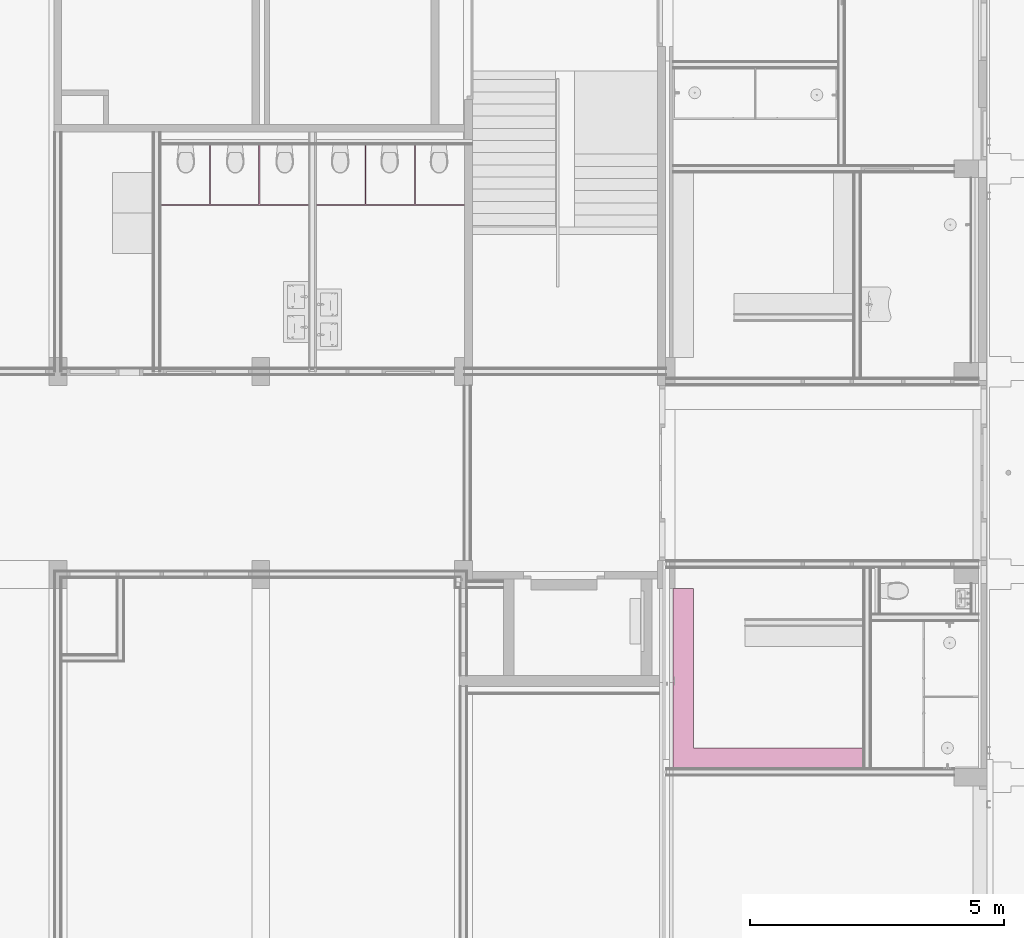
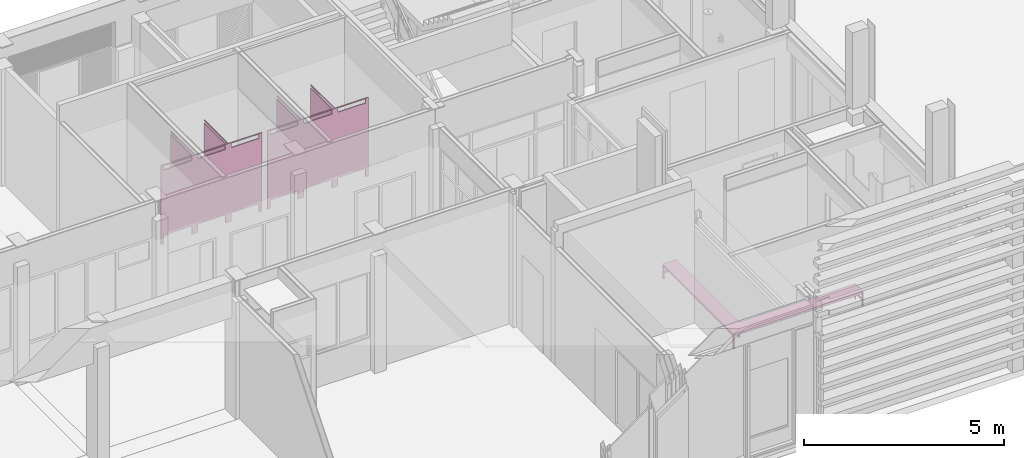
# One storey, part 102 of 109: 3 furnishings.
"""IFC2X3 building model written with IfcOpenShell, lengths in millimetres."""

import ifcopenshell
import ifcopenshell.guid

model = None  # the IFC model being written
_history = None  # IfcOwnerHistory: only IFC2X3 demands one
_inside = {}  # id of a spatial element -> (the spatial element, [elements in it])
_under = {}  # id of a project, library or spatial element -> (it, [spatial elements below it])
_declared = {}  # id of a project -> (the project, [libraries it declares])
_typed = {}  # id of a type object -> (the type object, [elements of that type])
_made_of = {}  # id of a material, layer set ... -> (it, [elements and type objects made of it])


def new_model(schema):
    """Start an empty IFC model of exactly this schema.

    Asked for "IFC4X3", IfcOpenShell would pick the latest addendum, in which some entities
    have other attributes; the version numbers below select the first issue.
    IFC2X3 requires an IfcOwnerHistory on every rooted entity: one is made here for all.
    """
    global model, _history
    if schema == "IFC4X3":
        model = ifcopenshell.file(schema_version=(4, 3, 0, 0))
    else:
        model = ifcopenshell.file(schema=schema)
    _inside.clear()
    _under.clear()
    _declared.clear()
    _typed.clear()
    _made_of.clear()
    _history = None
    if model.schema == "IFC2X3":
        org = make("IfcOrganization", Name="unknown")
        user = make(
            "IfcPersonAndOrganization",
            ThePerson=make("IfcPerson", FamilyName="unknown"),
            TheOrganization=org,
        )
        app = make(
            "IfcApplication",
            ApplicationDeveloper=org,
            Version="unknown",
            ApplicationFullName="unknown",
            ApplicationIdentifier="unknown",
        )
        _history = make(
            "IfcOwnerHistory",
            OwningUser=user,
            OwningApplication=app,
            ChangeAction="ADDED",
            CreationDate=0,
        )
    return model


def make(cls, **values):
    """One entity of the class cls with the attributes given. An attribute that is None is left unset."""
    return model.create_entity(
        cls, **{name: value for name, value in values.items() if value is not None}
    )


def entity(cls, *values):
    """Any entity or typed value of the class cls, its attributes in the order of the schema. None: left unset."""
    e = model.create_entity(cls)
    for i, value in enumerate(values):
        if value is not None:
            e[i] = value
    return e


def rooted(cls, **values):
    """An entity with a GlobalId (a new one), such as an element, a storey or a relation."""
    return make(cls, GlobalId=ifcopenshell.guid.new(), OwnerHistory=_history, **values)


def si_unit(unit_type, name, prefix=None):
    """IfcSIUnit, for example si_unit("LENGTHUNIT", "METRE", prefix="MILLI")."""
    return make("IfcSIUnit", UnitType=unit_type, Prefix=prefix, Name=name)


def converted_unit(unit_type, name, factor, base, dimensions=None, offset=None):
    """IfcConversionBasedUnit, such as the inch: factor (a typed value) times the base unit."""
    return make(
        "IfcConversionBasedUnit"
        if offset is None
        else "IfcConversionBasedUnitWithOffset",
        ConversionOffset=offset,
        Dimensions=None
        if dimensions is None
        else entity("IfcDimensionalExponents", *dimensions),
        UnitType=unit_type,
        Name=name,
        ConversionFactor=make(
            "IfcMeasureWithUnit", ValueComponent=factor, UnitComponent=base
        ),
    )


def derived_unit(unit_type, elements):
    """IfcDerivedUnit: a product of units, each with its exponent."""
    return make(
        "IfcDerivedUnit",
        Elements=[
            make("IfcDerivedUnitElement", Unit=unit, Exponent=power)
            for unit, power in elements
        ],
        UnitType=unit_type,
    )


def money_unit(currency):
    """IfcMonetaryUnit."""
    return make("IfcMonetaryUnit", Currency=currency)


def assignment(units):
    """IfcUnitAssignment: the units of a project."""
    return None if units is None else make("IfcUnitAssignment", Units=units)


def point(xyz):
    """IfcCartesianPoint."""
    return None if xyz is None else make("IfcCartesianPoint", Coordinates=xyz)


def direction(xyz):
    """IfcDirection."""
    return None if xyz is None else make("IfcDirection", DirectionRatios=xyz)


def frame(location, z_axis=None, x_axis=None):
    """IfcAxis2Placement3D, a coordinate frame: its origin and axes. An axis left out is left unset."""
    return make(
        "IfcAxis2Placement3D",
        Location=point(location),
        Axis=direction(z_axis),
        RefDirection=direction(x_axis),
    )


def origin_with_axes():
    """The frame at (0, 0, 0) with the z axis (0, 0, 1) and the x axis (1, 0, 0) written out."""
    return frame((0.0, 0.0, 0.0), z_axis=(0.0, 0.0, 1.0), x_axis=(1.0, 0.0, 0.0))


def place(relative_to, where):
    """IfcLocalPlacement: puts the frame where relative to a parent placement (None: the world)."""
    return make(
        "IfcLocalPlacement", PlacementRelTo=relative_to, RelativePlacement=where
    )


def context(
    kind, dimensions, precision=None, world=None, true_north=None, identifier=None
):
    """IfcGeometricRepresentationContext, for example the 3D "Model" context."""
    return make(
        "IfcGeometricRepresentationContext",
        ContextIdentifier=identifier,
        ContextType=kind,
        CoordinateSpaceDimension=dimensions,
        Precision=precision,
        WorldCoordinateSystem=world,
        TrueNorth=true_north,
    )


def subcontext(parent, identifier, kind, view, scale=None):
    """IfcGeometricRepresentationSubContext, for example "Body" below "Model"."""
    return make(
        "IfcGeometricRepresentationSubContext",
        ContextIdentifier=identifier,
        ContextType=kind,
        ParentContext=parent,
        TargetScale=scale,
        TargetView=view,
    )


def project(units=None, contexts=None):
    """IfcProject with its units and contexts."""
    return rooted(
        "IfcProject",
        Name="project",
        RepresentationContexts=contexts,
        UnitsInContext=assignment(units),
    )


def spatial(cls, under=None, at=None, **own):
    """A site, building, storey or space (cls), placed at a placement, below another one or the project."""
    s = rooted(cls, ObjectPlacement=at, **own)
    if under is not None:
        _under.setdefault(under.id(), (under, []))[1].append(s)
    return s


def faces_of(points, faces, orient=None, outer=None):
    """IfcFace entities. A face is a list of loops; a loop is a list of indices into points, from 0.

    orient and outer hold one flag for each loop. By default every Orientation is true, the
    first loop of a face is its IfcFaceOuterBound and the others are IfcFaceBound.
    """
    made = []
    for i, loops in enumerate(faces):
        bounds = []
        for j, loop in enumerate(loops):
            is_outer = j == 0 if outer is None else outer[i][j]
            bounds.append(
                make(
                    "IfcFaceOuterBound" if is_outer else "IfcFaceBound",
                    Bound=make("IfcPolyLoop", Polygon=[points[k] for k in loop]),
                    Orientation=True if orient is None else orient[i][j],
                )
            )
        made.append(make("IfcFace", Bounds=bounds))
    return made


def open_shell(faces, orient=None, outer=None):
    """The faces of one IfcOpenShell. surface_model builds it on its shared points."""
    return ("IfcOpenShell", faces, orient, outer)


def faceted_brep(points, faces, orient=None, outer=None, voids=None):
    """IfcFacetedBrep: a solid bounded by flat faces; with voids (closed shells), ...WithVoids."""
    shared = [point(p) for p in points]
    hull = make("IfcClosedShell", CfsFaces=faces_of(shared, faces, orient, outer))
    if voids is None:
        return make("IfcFacetedBrep", Outer=hull)
    return make(
        "IfcFacetedBrepWithVoids",
        Outer=hull,
        Voids=[
            make(cls, CfsFaces=faces_of(shared, fs, o, b)) for cls, fs, o, b in voids
        ],
    )


def surface_model(cls, points, shells):
    """IfcFaceBasedSurfaceModel or IfcShellBasedSurfaceModel (cls): surfaces that need not close."""
    shared = [point(p) for p in points]
    made = [make(c, CfsFaces=faces_of(shared, fs, o, b)) for c, fs, o, b in shells]
    if cls == "IfcFaceBasedSurfaceModel":
        return make(cls, FbsmFaces=made)
    return make(cls, SbsmBoundary=made)


def shape(context_of_items, identifier, shape_type, items):
    """IfcShapeRepresentation: the items that make up one representation, for example the "Body"."""
    return make(
        "IfcShapeRepresentation",
        ContextOfItems=context_of_items,
        RepresentationIdentifier=identifier,
        RepresentationType=shape_type,
        Items=items,
    )


def made_of(thing, what):
    """Note that an element or type object is made of a material, layer set ...; save() writes the relation."""
    if what is not None:
        _made_of.setdefault(what.id(), (what, []))[1].append(thing)
    return thing


def type_object(cls, material=None, **own):
    """A type object (cls), such as IfcWallType, which elements share."""
    return made_of(rooted(cls, **own), material)


def element(
    cls,
    number,
    at=None,
    inside=None,
    cuts=None,
    type_object=None,
    material=None,
    context=None,
    identifier="Body",
    shape_type=None,
    held_by="IfcProductDefinitionShape",
    body=None,
    shapes=None,
    **own,
):
    """One element of the class cls, such as IfcWall. Its Tag is "e" and its number.

    at: its placement. inside: the storey or other place that contains it. cuts: it is an
    opening in that element (IfcRelVoidsElement). A single representation is given by context,
    identifier, shape_type and body (its items); several are given by shapes. held_by: the class
    of the entity that holds the representations. save() writes the other relations.
    """
    e = rooted(cls, Tag="e%d" % number, ObjectPlacement=at, **own)
    if body is not None:
        shapes = [shape(context, identifier, shape_type, body)]
    if shapes is not None:
        e.Representation = make(held_by, Representations=shapes)
    if inside is not None:
        _inside.setdefault(inside.id(), (inside, []))[1].append(e)
    if cuts is not None:
        rooted(
            "IfcRelVoidsElement", RelatingBuildingElement=cuts, RelatedOpeningElement=e
        )
    if type_object is not None:
        _typed.setdefault(type_object.id(), (type_object, []))[1].append(e)
    return made_of(e, material)


def aggregate(whole, parts):
    """IfcRelAggregates: a whole, such as a stair, and the parts it consists of."""
    return rooted("IfcRelAggregates", RelatingObject=whole, RelatedObjects=parts)


def save(model, path):
    """Write the relations noted so far, then the file.

    IfcRelAggregates (storeys below a building ...), IfcRelContainedInSpatialStructure (elements
    in a storey), IfcRelDefinesByType, IfcRelAssociatesMaterial and IfcRelDeclares: one each for
    every whole, place, type object, material and project.
    """
    for whole, parts in _under.values():
        aggregate(whole, parts)
    for where, things in _inside.values():
        rooted(
            "IfcRelContainedInSpatialStructure",
            RelatedElements=things,
            RelatingStructure=where,
        )
    for kind, things in _typed.values():
        rooted("IfcRelDefinesByType", RelatedObjects=things, RelatingType=kind)
    for what, things in _made_of.values():
        rooted("IfcRelAssociatesMaterial", RelatedObjects=things, RelatingMaterial=what)
    for by, libraries in _declared.values():
        rooted("IfcRelDeclares", RelatingContext=by, RelatedDefinitions=libraries)
    model.write(path)


model = new_model("IFC2X3")

# Units and contexts
model_context = context("Model", 3, precision=0.01, world=origin_with_axes(), true_north=direction((0.0, 1.0)))
body_context = subcontext(model_context, "Body", "Model", "MODEL_VIEW")
ifc_project = project(units=[si_unit("LENGTHUNIT", "METRE", prefix="MILLI"), si_unit("AREAUNIT", "SQUARE_METRE"), si_unit("VOLUMEUNIT", "CUBIC_METRE"), converted_unit("PLANEANGLEUNIT", "DEGREE", entity("IfcPlaneAngleMeasure", 0.0174532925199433), si_unit("PLANEANGLEUNIT", "RADIAN"), dimensions=[0, 0, 0, 0, 0, 0, 0]), money_unit("EUR"), converted_unit("TIMEUNIT", "Year", entity("IfcTimeMeasure", 31557600.0), si_unit("TIMEUNIT", "SECOND"), dimensions=[0, 0, 1, 0, 0, 0, 0]), si_unit("MASSUNIT", "GRAM", prefix="KILO"), si_unit("THERMODYNAMICTEMPERATUREUNIT", "DEGREE_CELSIUS"), si_unit("LUMINOUSINTENSITYUNIT", "LUMEN"), si_unit("ENERGYUNIT", "JOULE", prefix="MEGA"), derived_unit("THERMALCONDUCTANCEUNIT", [(si_unit("POWERUNIT", "WATT"), 1), (si_unit("LENGTHUNIT", "METRE"), -1), (si_unit("THERMODYNAMICTEMPERATUREUNIT", "KELVIN"), -1)]), derived_unit("SPECIFICHEATCAPACITYUNIT", [(si_unit("ENERGYUNIT", "JOULE"), 1), (si_unit("MASSUNIT", "GRAM", prefix="KILO"), -1), (si_unit("THERMODYNAMICTEMPERATUREUNIT", "KELVIN"), -1)]), derived_unit("MASSDENSITYUNIT", [(si_unit("MASSUNIT", "GRAM", prefix="KILO"), 1), (si_unit("VOLUMEUNIT", "CUBIC_METRE"), -1)])], contexts=[model_context])

# Site, building, storey
site_placement = place(None, origin_with_axes())
site = spatial("IfcSite", under=ifc_project, at=site_placement, Name="<site naam>", CompositionType="ELEMENT")
building_placement = place(site_placement, origin_with_axes())
building = spatial("IfcBuilding", under=site, at=building_placement, Name="<Naam gebouw>", CompositionType="ELEMENT")
storey_placement = place(building_placement, origin_with_axes())
storey = spatial("IfcBuildingStorey", under=building, at=storey_placement, Name="00 Begane grond", CompositionType="ELEMENT", Elevation=0.0)

# Furnishings
furnishing_element_type = type_object("IfcFurnishingElementType", Name="Sanitaire wanden 27")
furnishing_1_placement = place(storey_placement, frame((48015.00002721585, 15274.90104163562, 0.0), z_axis=(0.0, 0.0, 1.0), x_axis=(1.0, 0.0, 0.0)))
element("IfcFurnishingElement", 1, at=furnishing_1_placement, inside=storey, type_object=furnishing_element_type, Name="72_Sanitaire wanden Kupan_Lege", context=body_context, shape_type="SurfaceModel", body=[
    faceted_brep([(0.0, 0.0, 0.0), (0.0, 0.0, 2375.0), (-86.66666776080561, 0.0, 2375.0), (-86.66666776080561, 0.0, 0.0), (0.0, 25.0, 0.0), (0.0, 25.0, 2375.0), (-86.66666776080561, 25.0, 2375.0), (-86.66666776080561, 25.0, 0.0)], [[[0, 1, 2, 3]], [[4, 5, 1, 0]], [[1, 5, 6, 2]], [[3, 2, 6, 7]], [[0, 3, 7, 4]], [[7, 6, 5, 4]]]),
    surface_model("IfcShellBasedSurfaceModel", [(-886.6666677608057, 0.0, 0.0), (-886.6666677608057, 0.0, 2375.0), (-973.3333355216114, 0.0, 2375.0), (-973.3333355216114, 0.0, 0.0), (-886.6666677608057, 25.0, 0.0), (-886.6666677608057, 25.0, 2375.0), (-973.3333355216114, 25.0, 2375.0), (-973.3333355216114, 25.0, 0.0)], [open_shell([[[0, 1, 2, 3]], [[4, 5, 1, 0]], [[1, 5, 6, 2]], [[0, 3, 7, 4]], [[7, 6, 5, 4]]])]),
    surface_model("IfcShellBasedSurfaceModel", [(0.0, 0.0, 0.0), (-86.66666776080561, 0.0, 0.0), (-86.66666776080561, 25.0, 0.0), (0.0, 25.0, 0.0)], [open_shell([[[0, 1, 2, 3]]])]),
    surface_model("IfcShellBasedSurfaceModel", [(-886.6666677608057, 0.0, 0.0), (-973.3333355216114, 0.0, 0.0), (-973.3333355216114, 25.0, 0.0), (-886.6666677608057, 25.0, 0.0)], [open_shell([[[0, 1, 2, 3]]])]),
    surface_model("IfcShellBasedSurfaceModel", [(-973.3333355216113, 25.0, 2375.0), (-973.3333355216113, 25.0, 2400.0), (0.0, 25.0, 2400.0), (0.0, 25.0, 2375.0), (-973.3333355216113, 0.0, 2400.0), (0.0, 0.0, 2400.0), (0.0, 0.0, 2375.0), (-973.3333355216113, 0.0, 2375.0)], [open_shell([[[0, 1, 2, 3]], [[4, 5, 2, 1]], [[3, 2, 5, 6]], [[7, 0, 3, 6]], [[6, 5, 4, 7]]])]),
    faceted_brep([(-86.66666776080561, 0.0, 250.0), (-86.66666776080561, 0.0, 2250.0), (-886.6666677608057, 0.0, 2250.0), (-886.6666677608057, 0.0, 250.0), (-86.66666776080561, 25.0, 250.0), (-86.66666776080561, 25.0, 2250.0), (-886.6666677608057, 25.0, 2250.0), (-886.6666677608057, 25.0, 250.0)], [[[0, 1, 2, 3]], [[4, 5, 1, 0]], [[1, 5, 6, 2]], [[3, 2, 6, 7]], [[0, 3, 7, 4]], [[7, 6, 5, 4]]]),
    surface_model("IfcShellBasedSurfaceModel", [(-973.3333355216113, 0.0, 0.0), (-973.3333355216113, 0.0, 2375.0), (-1060.000003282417, 0.0, 2375.0), (-1060.000003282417, 0.0, 0.0), (-973.3333355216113, 25.0, 2375.0), (-1060.000003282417, 25.0, 2375.0), (-1060.000003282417, 25.0, 0.0), (-973.3333355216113, 25.0, 0.0)], [open_shell([[[0, 1, 2, 3]], [[1, 4, 5, 2]], [[3, 2, 5, 6]], [[0, 3, 6, 7]], [[6, 5, 4, 7]]])]),
    surface_model("IfcShellBasedSurfaceModel", [(-1860.000003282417, 0.0, 0.0), (-1860.000003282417, 0.0, 2375.0), (-1946.666671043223, 0.0, 2375.0), (-1946.666671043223, 0.0, 0.0), (-1860.000003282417, 25.0, 0.0), (-1860.000003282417, 25.0, 2375.0), (-1946.666671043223, 25.0, 2375.0), (-1946.666671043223, 25.0, 0.0)], [open_shell([[[0, 1, 2, 3]], [[4, 5, 1, 0]], [[1, 5, 6, 2]], [[0, 3, 7, 4]], [[7, 6, 5, 4]]])]),
    surface_model("IfcShellBasedSurfaceModel", [(-973.3333355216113, 0.0, 0.0), (-1060.000003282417, 0.0, 0.0), (-1060.000003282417, 25.0, 0.0), (-973.3333355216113, 25.0, 0.0)], [open_shell([[[0, 1, 2, 3]]])]),
    surface_model("IfcShellBasedSurfaceModel", [(-1860.000003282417, 0.0, 0.0), (-1946.666671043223, 0.0, 0.0), (-1946.666671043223, 25.0, 0.0), (-1860.000003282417, 25.0, 0.0)], [open_shell([[[0, 1, 2, 3]]])]),
    surface_model("IfcShellBasedSurfaceModel", [(-1946.666671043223, 25.0, 2375.0), (-1946.666671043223, 25.0, 2400.0), (-973.3333355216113, 25.0, 2400.0), (-973.3333355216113, 25.0, 2375.0), (-1946.666671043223, 0.0, 2400.0), (-973.3333355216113, 0.0, 2400.0), (-1946.666671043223, 0.0, 2375.0), (-973.3333355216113, 0.0, 2375.0)], [open_shell([[[0, 1, 2, 3]], [[4, 5, 2, 1]], [[6, 0, 3, 7]], [[7, 5, 4, 6]]])]),
    faceted_brep([(-1060.000003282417, 0.0, 250.0), (-1060.000003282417, 0.0, 2250.0), (-1860.000003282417, 0.0, 2250.0), (-1860.000003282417, 0.0, 250.0), (-1060.000003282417, 25.0, 250.0), (-1060.000003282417, 25.0, 2250.0), (-1860.000003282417, 25.0, 2250.0), (-1860.000003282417, 25.0, 250.0)], [[[0, 1, 2, 3]], [[4, 5, 1, 0]], [[1, 5, 6, 2]], [[3, 2, 6, 7]], [[0, 3, 7, 4]], [[7, 6, 5, 4]]]),
    surface_model("IfcShellBasedSurfaceModel", [(-1946.666671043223, 0.0, 0.0), (-1946.666671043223, 0.0, 2375.0), (-2033.333338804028, 0.0, 2375.0), (-2033.333338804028, 0.0, 0.0), (-1946.666671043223, 25.0, 2375.0), (-2033.333338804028, 25.0, 2375.0), (-2033.333338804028, 25.0, 0.0), (-1946.666671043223, 25.0, 0.0)], [open_shell([[[0, 1, 2, 3]], [[1, 4, 5, 2]], [[3, 2, 5, 6]], [[0, 3, 6, 7]], [[6, 5, 4, 7]]])]),
    faceted_brep([(-2833.333338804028, 0.0, 0.0), (-2833.333338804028, 0.0, 2375.0), (-2920.000006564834, 0.0, 2375.0), (-2920.000006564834, 0.0, 0.0), (-2833.333338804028, 25.0, 0.0), (-2833.333338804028, 25.0, 2375.0), (-2920.000006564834, 25.0, 2375.0), (-2920.000006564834, 25.0, 0.0)], [[[0, 1, 2, 3]], [[4, 5, 1, 0]], [[1, 5, 6, 2]], [[3, 2, 6, 7]], [[0, 3, 7, 4]], [[7, 6, 5, 4]]]),
    surface_model("IfcShellBasedSurfaceModel", [(-1946.666671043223, 0.0, 0.0), (-2033.333338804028, 0.0, 0.0), (-2033.333338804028, 25.0, 0.0), (-1946.666671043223, 25.0, 0.0)], [open_shell([[[0, 1, 2, 3]]])]),
    surface_model("IfcShellBasedSurfaceModel", [(-2833.333338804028, 0.0, 0.0), (-2920.000006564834, 0.0, 0.0), (-2920.000006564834, 25.0, 0.0), (-2833.333338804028, 25.0, 0.0)], [open_shell([[[0, 1, 2, 3]]])]),
    surface_model("IfcShellBasedSurfaceModel", [(-2920.000006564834, 0.0, 2375.0), (-2920.000006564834, 0.0, 2400.0), (-2920.000006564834, 25.0, 2400.0), (-2920.000006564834, 25.0, 2375.0), (-1946.666671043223, 0.0, 2375.0), (-1946.666671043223, 0.0, 2400.0), (-1946.666671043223, 25.0, 2400.0), (-1946.666671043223, 25.0, 2375.0)], [open_shell([[[0, 1, 2, 3]], [[4, 5, 1, 0]], [[1, 5, 6, 2]], [[3, 2, 6, 7]], [[0, 3, 7, 4]]])]),
    faceted_brep([(-2033.333338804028, 0.0, 250.0), (-2033.333338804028, 0.0, 2250.0), (-2833.333338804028, 0.0, 2250.0), (-2833.333338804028, 0.0, 250.0), (-2033.333338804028, 25.0, 250.0), (-2033.333338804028, 25.0, 2250.0), (-2833.333338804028, 25.0, 2250.0), (-2833.333338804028, 25.0, 250.0)], [[[0, 1, 2, 3]], [[4, 5, 1, 0]], [[1, 5, 6, 2]], [[3, 2, 6, 7]], [[0, 3, 7, 4]], [[7, 6, 5, 4]]]),
    faceted_brep([(-985.8333355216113, 25.0, 300.0), (-985.8333355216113, 25.0, 2300.0), (-985.8333355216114, 1200.048789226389, 2300.0), (-985.8333355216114, 1200.048789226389, 300.0), (-960.8333355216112, 25.0, 300.0), (-960.8333355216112, 25.0, 2300.0), (-960.8333355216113, 1200.048789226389, 2300.0), (-960.8333355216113, 1200.048789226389, 300.0)], [[[0, 1, 2, 3]], [[4, 5, 1, 0]], [[1, 5, 6, 2]], [[3, 2, 6, 7]], [[0, 3, 7, 4]], [[7, 6, 5, 4]]]),
    faceted_brep([(-985.8333355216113, 25.0, 2375.0), (-985.8333355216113, 25.0, 2400.0), (-985.8333355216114, 1200.048789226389, 2400.0), (-985.8333355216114, 1200.048789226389, 2375.0), (-960.8333355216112, 25.0, 2375.0), (-960.8333355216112, 25.0, 2400.0), (-960.8333355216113, 1200.048789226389, 2400.0), (-960.8333355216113, 1200.048789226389, 2375.0)], [[[0, 1, 2, 3]], [[4, 5, 1, 0]], [[1, 5, 6, 2]], [[3, 2, 6, 7]], [[0, 3, 7, 4]], [[7, 6, 5, 4]]]),
    faceted_brep([(-1959.166671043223, 25.0, 300.0), (-1959.166671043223, 25.0, 2300.0), (-1959.166671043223, 1200.048789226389, 2300.0), (-1959.166671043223, 1200.048789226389, 300.0), (-1934.166671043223, 25.0, 300.0), (-1934.166671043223, 25.0, 2300.0), (-1934.166671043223, 1200.048789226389, 2300.0), (-1934.166671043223, 1200.048789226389, 300.0)], [[[0, 1, 2, 3]], [[4, 5, 1, 0]], [[1, 5, 6, 2]], [[3, 2, 6, 7]], [[0, 3, 7, 4]], [[7, 6, 5, 4]]]),
    faceted_brep([(-1959.166671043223, 25.0, 2375.0), (-1959.166671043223, 25.0, 2400.0), (-1959.166671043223, 1200.048789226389, 2400.0), (-1959.166671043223, 1200.048789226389, 2375.0), (-1934.166671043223, 25.0, 2375.0), (-1934.166671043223, 25.0, 2400.0), (-1934.166671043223, 1200.048789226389, 2400.0), (-1934.166671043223, 1200.048789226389, 2375.0)], [[[0, 1, 2, 3]], [[4, 5, 1, 0]], [[1, 5, 6, 2]], [[3, 2, 6, 7]], [[0, 3, 7, 4]], [[7, 6, 5, 4]]]),
])
furnishing_2_placement = place(storey_placement, frame((42025.00000000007, 15274.91244501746, 0.0), z_axis=(0.0, 0.0, 1.0), x_axis=(1.0, 0.0, 0.0)))
element("IfcFurnishingElement", 2, at=furnishing_2_placement, inside=storey, type_object=furnishing_element_type, Name="72_Sanitaire wanden Kupan_Lege", context=body_context, shape_type="SurfaceModel", body=[
    faceted_brep([(0.0, 0.0, 0.0), (86.66667070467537, 0.0, 0.0), (86.66667070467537, 0.0, 2375.0), (0.0, 0.0, 2375.0), (0.0, 25.0, 0.0), (86.66667070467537, 25.0, 0.0), (86.66667070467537, 25.0, 2375.0), (0.0, 25.0, 2375.0)], [[[0, 1, 2, 3]], [[0, 4, 5, 1]], [[1, 5, 6, 2]], [[3, 2, 6, 7]], [[4, 0, 3, 7]], [[5, 4, 7, 6]]]),
    surface_model("IfcShellBasedSurfaceModel", [(886.6666707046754, 0.0, 0.0), (973.3333414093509, 0.0, 0.0), (973.3333414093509, 0.0, 2375.0), (886.6666707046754, 0.0, 2375.0), (886.6666707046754, 25.0, 0.0), (973.3333414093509, 25.0, 0.0), (973.3333414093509, 25.0, 2375.0), (886.6666707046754, 25.0, 2375.0)], [open_shell([[[0, 1, 2, 3]], [[0, 4, 5, 1]], [[3, 2, 6, 7]], [[4, 0, 3, 7]], [[5, 4, 7, 6]]])]),
    surface_model("IfcShellBasedSurfaceModel", [(0.0, 0.0, 0.0), (0.0, 25.0, 0.0), (86.66667070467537, 25.0, 0.0), (86.66667070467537, 0.0, 0.0)], [open_shell([[[0, 1, 2, 3]]])]),
    surface_model("IfcShellBasedSurfaceModel", [(886.6666707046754, 0.0, 0.0), (886.6666707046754, 25.0, 0.0), (973.3333414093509, 25.0, 0.0), (973.3333414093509, 0.0, 0.0)], [open_shell([[[0, 1, 2, 3]]])]),
    surface_model("IfcShellBasedSurfaceModel", [(973.3333414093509, 25.0, 2375.0), (0.0, 25.0, 2375.0), (0.0, 25.0, 2400.0), (973.3333414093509, 25.0, 2400.0), (973.3333414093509, 0.0, 2375.0), (0.0, 0.0, 2375.0), (0.0, 0.0, 2400.0), (973.3333414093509, 0.0, 2400.0)], [open_shell([[[0, 1, 2, 3]], [[4, 5, 1, 0]], [[1, 5, 6, 2]], [[7, 3, 2, 6]], [[5, 4, 7, 6]]])]),
    faceted_brep([(86.66667070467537, 0.0, 250.0), (886.6666707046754, 0.0, 250.0), (886.6666707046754, 0.0, 2250.0), (86.66667070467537, 0.0, 2250.0), (86.66667070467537, 25.0, 250.0), (886.6666707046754, 25.0, 250.0), (886.6666707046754, 25.0, 2250.0), (86.66667070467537, 25.0, 2250.0)], [[[0, 1, 2, 3]], [[0, 4, 5, 1]], [[1, 5, 6, 2]], [[3, 2, 6, 7]], [[4, 0, 3, 7]], [[5, 4, 7, 6]]]),
    surface_model("IfcShellBasedSurfaceModel", [(973.3333414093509, 0.0, 0.0), (1060.000012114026, 0.0, 0.0), (1060.000012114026, 0.0, 2375.0), (973.3333414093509, 0.0, 2375.0), (973.3333414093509, 25.0, 0.0), (1060.000012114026, 25.0, 0.0), (1060.000012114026, 25.0, 2375.0), (973.3333414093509, 25.0, 2375.0)], [open_shell([[[0, 1, 2, 3]], [[0, 4, 5, 1]], [[1, 5, 6, 2]], [[3, 2, 6, 7]], [[5, 4, 7, 6]]])]),
    surface_model("IfcShellBasedSurfaceModel", [(1860.000012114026, 0.0, 0.0), (1946.666682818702, 0.0, 0.0), (1946.666682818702, 0.0, 2375.0), (1860.000012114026, 0.0, 2375.0), (1860.000012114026, 25.0, 0.0), (1946.666682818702, 25.0, 0.0), (1946.666682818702, 25.0, 2375.0), (1860.000012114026, 25.0, 2375.0)], [open_shell([[[0, 1, 2, 3]], [[0, 4, 5, 1]], [[3, 2, 6, 7]], [[4, 0, 3, 7]], [[5, 4, 7, 6]]])]),
    surface_model("IfcShellBasedSurfaceModel", [(973.3333414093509, 0.0, 0.0), (973.3333414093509, 25.0, 0.0), (1060.000012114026, 25.0, 0.0), (1060.000012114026, 0.0, 0.0)], [open_shell([[[0, 1, 2, 3]]])]),
    surface_model("IfcShellBasedSurfaceModel", [(1860.000012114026, 0.0, 0.0), (1860.000012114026, 25.0, 0.0), (1946.666682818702, 25.0, 0.0), (1946.666682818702, 0.0, 0.0)], [open_shell([[[0, 1, 2, 3]]])]),
    surface_model("IfcShellBasedSurfaceModel", [(1946.666682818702, 25.0, 2375.0), (973.3333414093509, 25.0, 2375.0), (973.3333414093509, 25.0, 2400.0), (1946.666682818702, 25.0, 2400.0), (1946.666682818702, 0.0, 2375.0), (973.3333414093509, 0.0, 2375.0), (1946.666682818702, 0.0, 2400.0), (973.3333414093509, 0.0, 2400.0)], [open_shell([[[0, 1, 2, 3]], [[4, 5, 1, 0]], [[6, 3, 2, 7]], [[5, 4, 6, 7]]])]),
    faceted_brep([(1060.000012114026, 0.0, 250.0), (1860.000012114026, 0.0, 250.0), (1860.000012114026, 0.0, 2250.0), (1060.000012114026, 0.0, 2250.0), (1060.000012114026, 25.0, 250.0), (1860.000012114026, 25.0, 250.0), (1860.000012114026, 25.0, 2250.0), (1060.000012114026, 25.0, 2250.0)], [[[0, 1, 2, 3]], [[0, 4, 5, 1]], [[1, 5, 6, 2]], [[3, 2, 6, 7]], [[4, 0, 3, 7]], [[5, 4, 7, 6]]]),
    surface_model("IfcShellBasedSurfaceModel", [(1946.666682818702, 0.0, 0.0), (2033.333353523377, 0.0, 0.0), (2033.333353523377, 0.0, 2375.0), (1946.666682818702, 0.0, 2375.0), (1946.666682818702, 25.0, 0.0), (2033.333353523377, 25.0, 0.0), (2033.333353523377, 25.0, 2375.0), (1946.666682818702, 25.0, 2375.0)], [open_shell([[[0, 1, 2, 3]], [[0, 4, 5, 1]], [[1, 5, 6, 2]], [[3, 2, 6, 7]], [[5, 4, 7, 6]]])]),
    faceted_brep([(2833.333353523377, 0.0, 0.0), (2920.000024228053, 0.0, 0.0), (2920.000024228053, 0.0, 2375.0), (2833.333353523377, 0.0, 2375.0), (2833.333353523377, 25.0, 0.0), (2920.000024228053, 25.0, 0.0), (2920.000024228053, 25.0, 2375.0), (2833.333353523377, 25.0, 2375.0)], [[[0, 1, 2, 3]], [[0, 4, 5, 1]], [[1, 5, 6, 2]], [[3, 2, 6, 7]], [[4, 0, 3, 7]], [[5, 4, 7, 6]]]),
    surface_model("IfcShellBasedSurfaceModel", [(1946.666682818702, 0.0, 0.0), (1946.666682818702, 25.0, 0.0), (2033.333353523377, 25.0, 0.0), (2033.333353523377, 0.0, 0.0)], [open_shell([[[0, 1, 2, 3]]])]),
    surface_model("IfcShellBasedSurfaceModel", [(2833.333353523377, 0.0, 0.0), (2833.333353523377, 25.0, 0.0), (2920.000024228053, 25.0, 0.0), (2920.000024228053, 0.0, 0.0)], [open_shell([[[0, 1, 2, 3]]])]),
    surface_model("IfcShellBasedSurfaceModel", [(2920.000024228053, 0.0, 2375.0), (2920.000024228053, 25.0, 2375.0), (2920.000024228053, 25.0, 2400.0), (2920.000024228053, 0.0, 2400.0), (1946.666682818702, 0.0, 2375.0), (1946.666682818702, 25.0, 2375.0), (1946.666682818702, 25.0, 2400.0), (1946.666682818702, 0.0, 2400.0)], [open_shell([[[0, 1, 2, 3]], [[0, 4, 5, 1]], [[1, 5, 6, 2]], [[3, 2, 6, 7]], [[4, 0, 3, 7]]])]),
    faceted_brep([(2033.333353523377, 0.0, 250.0), (2833.333353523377, 0.0, 250.0), (2833.333353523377, 0.0, 2250.0), (2033.333353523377, 0.0, 2250.0), (2033.333353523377, 25.0, 250.0), (2833.333353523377, 25.0, 250.0), (2833.333353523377, 25.0, 2250.0), (2033.333353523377, 25.0, 2250.0)], [[[0, 1, 2, 3]], [[0, 4, 5, 1]], [[1, 5, 6, 2]], [[3, 2, 6, 7]], [[4, 0, 3, 7]], [[5, 4, 7, 6]]]),
    faceted_brep([(985.8333414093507, 25.0, 300.0), (985.8333414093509, 1200.037363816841, 300.0), (985.8333414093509, 1200.037363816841, 2300.0), (985.8333414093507, 25.0, 2300.0), (960.8333414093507, 25.0, 300.0), (960.8333414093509, 1200.037363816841, 300.0), (960.8333414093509, 1200.037363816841, 2300.0), (960.8333414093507, 25.0, 2300.0)], [[[0, 1, 2, 3]], [[0, 4, 5, 1]], [[1, 5, 6, 2]], [[3, 2, 6, 7]], [[4, 0, 3, 7]], [[5, 4, 7, 6]]]),
    faceted_brep([(985.8333414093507, 25.0, 2375.0), (985.8333414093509, 1200.037363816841, 2375.0), (985.8333414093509, 1200.037363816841, 2400.0), (985.8333414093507, 25.0, 2400.0), (960.8333414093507, 25.0, 2375.0), (960.8333414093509, 1200.037363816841, 2375.0), (960.8333414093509, 1200.037363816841, 2400.0), (960.8333414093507, 25.0, 2400.0)], [[[0, 1, 2, 3]], [[0, 4, 5, 1]], [[1, 5, 6, 2]], [[3, 2, 6, 7]], [[4, 0, 3, 7]], [[5, 4, 7, 6]]]),
    faceted_brep([(1959.166682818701, 25.0, 300.0), (1959.166682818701, 1200.037363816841, 300.0), (1959.166682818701, 1200.037363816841, 2300.0), (1959.166682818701, 25.0, 2300.0), (1934.166682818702, 25.0, 300.0), (1934.166682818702, 1200.037363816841, 300.0), (1934.166682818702, 1200.037363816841, 2300.0), (1934.166682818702, 25.0, 2300.0)], [[[0, 1, 2, 3]], [[0, 4, 5, 1]], [[1, 5, 6, 2]], [[3, 2, 6, 7]], [[4, 0, 3, 7]], [[5, 4, 7, 6]]]),
    faceted_brep([(1959.166682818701, 25.0, 2375.0), (1959.166682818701, 1200.037363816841, 2375.0), (1959.166682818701, 1200.037363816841, 2400.0), (1959.166682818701, 25.0, 2400.0), (1934.166682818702, 25.0, 2375.0), (1934.166682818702, 1200.037363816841, 2375.0), (1934.166682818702, 1200.037363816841, 2400.0), (1934.166682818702, 25.0, 2400.0)], [[[0, 1, 2, 3]], [[0, 4, 5, 1]], [[1, 5, 6, 2]], [[3, 2, 6, 7]], [[4, 0, 3, 7]], [[5, 4, 7, 6]]]),
])
furniture_type = type_object("IfcFurnitureType", Name="Buitenbank 02 27", AssemblyPlace="NOTDEFINED")
furnishing_3_placement = place(storey_placement, frame((55887.8144885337, 7725.000000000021, 0.0), z_axis=(0.0, 0.0, 1.0), x_axis=(0.0, 1.0, 0.0)))
element("IfcFurnishingElement", 3, at=furnishing_3_placement, inside=storey, type_object=furniture_type, Name="72_Brandslanghaspelkast_Lege", ObjectType="CHAIR", context=body_context, shape_type="Brep", body=[
    faceted_brep([(-30.0, 3712.814488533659, 0.0), (-30.0, 3752.814488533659, 0.0), (0.0, 3752.814488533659, 0.0), (0.0, 3712.814488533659, 0.0), (-30.0, 3712.814488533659, 435.0), (-30.0, 3752.814488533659, 435.0), (0.0, 3752.814488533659, 435.0), (0.0, 3712.814488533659, 435.0)], [[[0, 1, 2, 3]], [[0, 4, 5, 1]], [[1, 5, 6, 2]], [[2, 6, 7, 3]], [[3, 7, 4, 0]], [[7, 6, 5, 4]]]),
    faceted_brep([(-30.0, 3352.814488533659, 0.0), (-30.0, 3392.814488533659, 0.0), (0.0, 3392.814488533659, 0.0), (0.0, 3352.814488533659, 0.0), (-30.0, 3352.814488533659, 435.0), (-30.0, 3392.814488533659, 435.0), (0.0, 3392.814488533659, 435.0), (0.0, 3352.814488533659, 435.0)], [[[0, 1, 2, 3]], [[0, 4, 5, 1]], [[1, 5, 6, 2]], [[2, 6, 7, 3]], [[3, 7, 4, 0]], [[7, 6, 5, 4]]]),
    faceted_brep([(-3190.000000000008, 3352.814488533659, 0.0), (-3190.000000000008, 3392.814488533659, 0.0), (-3150.000000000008, 3392.814488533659, 0.0), (-3150.000000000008, 3352.814488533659, 0.0), (-3190.000000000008, 3352.814488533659, 435.0), (-3190.000000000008, 3392.814488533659, 435.0), (-3150.000000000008, 3392.814488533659, 435.0), (-3150.000000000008, 3352.814488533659, 435.0)], [[[0, 1, 2, 3]], [[0, 4, 5, 1]], [[1, 5, 6, 2]], [[2, 6, 7, 3]], [[3, 7, 4, 0]], [[7, 6, 5, 4]]]),
    faceted_brep([(-3190.000000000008, 0.0, 0.0), (-3190.000000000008, 30.0, 0.0), (-3150.000000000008, 30.0, 0.0), (-3150.000000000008, 0.0, 0.0), (-3190.000000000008, 0.0, 435.0), (-3190.000000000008, 30.0, 435.0), (-3150.000000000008, 30.0, 435.0), (-3150.000000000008, 0.0, 435.0)], [[[0, 1, 2, 3]], [[0, 4, 5, 1]], [[1, 5, 6, 2]], [[2, 6, 7, 3]], [[3, 7, 4, 0]], [[7, 6, 5, 4]]]),
    faceted_brep([(-3550.000000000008, 0.0, 0.0), (-3550.000000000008, 30.0, 0.0), (-3510.000000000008, 30.0, 0.0), (-3510.000000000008, 0.0, 0.0), (-3550.000000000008, 0.0, 435.0), (-3550.000000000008, 30.0, 435.0), (-3510.000000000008, 30.0, 435.0), (-3510.000000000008, 0.0, 435.0)], [[[0, 1, 2, 3]], [[0, 4, 5, 1]], [[1, 5, 6, 2]], [[2, 6, 7, 3]], [[3, 7, 4, 0]], [[7, 6, 5, 4]]]),
    faceted_brep([(-3550.000000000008, 3712.814488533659, 0.0), (-3550.000000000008, 3752.814488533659, 0.0), (-3510.000000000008, 3752.814488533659, 0.0), (-3510.000000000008, 3712.814488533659, 0.0), (-3550.000000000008, 3712.814488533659, 435.0), (-3550.000000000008, 3752.814488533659, 435.0), (-3510.000000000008, 3752.814488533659, 435.0), (-3510.000000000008, 3712.814488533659, 435.0)], [[[0, 1, 2, 3]], [[0, 4, 5, 1]], [[1, 5, 6, 2]], [[2, 6, 7, 3]], [[3, 7, 4, 0]], [[7, 6, 5, 4]]]),
    faceted_brep([(-29.99999999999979, 3392.814488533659, 375.0), (-29.99999999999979, 3712.814488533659, 375.0), (-9.999999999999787, 3712.814488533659, 375.0), (-9.999999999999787, 3392.814488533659, 375.0), (-29.99999999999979, 3392.814488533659, 435.0), (-29.99999999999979, 3712.814488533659, 435.0), (-9.999999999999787, 3712.814488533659, 435.0), (-9.999999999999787, 3392.814488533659, 435.0)], [[[0, 1, 2, 3]], [[0, 4, 5, 1]], [[1, 5, 6, 2]], [[2, 6, 7, 3]], [[3, 7, 4, 0]], [[7, 6, 5, 4]]]),
    faceted_brep([(-29.99999999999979, 3392.814488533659, 170.0), (-29.99999999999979, 3712.814488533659, 170.0), (-9.999999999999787, 3712.814488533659, 170.0), (-9.999999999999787, 3392.814488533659, 170.0), (-29.99999999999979, 3392.814488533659, 230.0), (-29.99999999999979, 3712.814488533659, 230.0), (-9.999999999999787, 3712.814488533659, 230.0), (-9.999999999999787, 3392.814488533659, 230.0)], [[[0, 1, 2, 3]], [[0, 4, 5, 1]], [[1, 5, 6, 2]], [[2, 6, 7, 3]], [[3, 7, 4, 0]], [[7, 6, 5, 4]]]),
    faceted_brep([(-3150.000000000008, 3362.814488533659, 375.0), (-3150.000000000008, 3382.814488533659, 375.0), (-29.99999999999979, 3382.814488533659, 375.0), (-29.99999999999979, 3362.814488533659, 375.0), (-3150.000000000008, 3362.814488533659, 435.0), (-3150.000000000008, 3382.814488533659, 435.0), (-29.99999999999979, 3382.814488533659, 435.0), (-29.99999999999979, 3362.814488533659, 435.0)], [[[0, 1, 2, 3]], [[0, 4, 5, 1]], [[1, 5, 6, 2]], [[2, 6, 7, 3]], [[3, 7, 4, 0]], [[7, 6, 5, 4]]]),
    faceted_brep([(-3510.000000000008, 3722.814488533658, 375.0), (-3510.000000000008, 3742.814488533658, 375.0), (-29.9999999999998, 3742.814488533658, 375.0), (-29.9999999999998, 3722.814488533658, 375.0), (-3510.000000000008, 3722.814488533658, 435.0), (-3510.000000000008, 3742.814488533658, 435.0), (-29.9999999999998, 3742.814488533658, 435.0), (-29.9999999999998, 3722.814488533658, 435.0)], [[[0, 1, 2, 3]], [[0, 4, 5, 1]], [[1, 5, 6, 2]], [[2, 6, 7, 3]], [[3, 7, 4, 0]], [[7, 6, 5, 4]]]),
    faceted_brep([(-3180.000000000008, 29.9999999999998, 375.0), (-3180.000000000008, 3352.814488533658, 375.0), (-3160.000000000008, 3352.814488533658, 375.0), (-3160.000000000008, 29.9999999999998, 375.0), (-3180.000000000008, 29.9999999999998, 435.0), (-3180.000000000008, 3352.814488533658, 435.0), (-3160.000000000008, 3352.814488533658, 435.0), (-3160.000000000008, 29.9999999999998, 435.0)], [[[0, 1, 2, 3]], [[0, 4, 5, 1]], [[1, 5, 6, 2]], [[2, 6, 7, 3]], [[3, 7, 4, 0]], [[7, 6, 5, 4]]]),
    faceted_brep([(-3540.000000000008, 29.9999999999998, 375.0), (-3540.000000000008, 3712.814488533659, 375.0), (-3520.000000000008, 3712.814488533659, 375.0), (-3520.000000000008, 29.9999999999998, 375.0), (-3540.000000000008, 29.9999999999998, 435.0), (-3540.000000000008, 3712.814488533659, 435.0), (-3520.000000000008, 3712.814488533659, 435.0), (-3520.000000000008, 29.9999999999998, 435.0)], [[[0, 1, 2, 3]], [[0, 4, 5, 1]], [[1, 5, 6, 2]], [[2, 6, 7, 3]], [[3, 7, 4, 0]], [[7, 6, 5, 4]]]),
    faceted_brep([(-3510.000000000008, 9.999999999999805, 375.0), (-3510.000000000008, 29.9999999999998, 375.0), (-3190.000000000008, 29.9999999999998, 375.0), (-3190.000000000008, 9.999999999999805, 375.0), (-3510.000000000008, 9.999999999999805, 435.0), (-3510.000000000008, 29.9999999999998, 435.0), (-3190.000000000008, 29.9999999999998, 435.0), (-3190.000000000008, 9.999999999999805, 435.0)], [[[0, 1, 2, 3]], [[0, 4, 5, 1]], [[1, 5, 6, 2]], [[2, 6, 7, 3]], [[3, 7, 4, 0]], [[7, 6, 5, 4]]]),
    faceted_brep([(-3510.000000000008, 9.999999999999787, 170.0), (-3510.000000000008, 29.99999999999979, 170.0), (-3190.000000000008, 29.99999999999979, 170.0), (-3190.000000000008, 9.999999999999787, 170.0), (-3510.000000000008, 9.999999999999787, 230.0), (-3510.000000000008, 29.99999999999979, 230.0), (-3190.000000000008, 29.99999999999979, 230.0), (-3190.000000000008, 9.999999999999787, 230.0)], [[[0, 1, 2, 3]], [[0, 4, 5, 1]], [[1, 5, 6, 2]], [[2, 6, 7, 3]], [[3, 7, 4, 0]], [[7, 6, 5, 4]]]),
    faceted_brep([(-3550.000000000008, 3752.814488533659, 435.0), (-3550.000000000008, 3752.814488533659, 450.0), (0.0, 3752.814488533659, 450.0), (0.0, 3752.814488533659, 435.0), (-3550.000000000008, 3352.814488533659, 435.0), (-3550.000000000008, 3352.814488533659, 450.0), (-3150.000000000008, 3352.814488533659, 450.0), (0.0, 3352.814488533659, 450.0), (0.0, 3352.814488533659, 435.0), (-3150.000000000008, 3352.814488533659, 435.0)], [[[0, 1, 2, 3]], [[4, 5, 1, 0]], [[1, 5, 6, 7, 2]], [[3, 2, 7, 8]], [[0, 3, 8, 9, 4]], [[9, 6, 5, 4]], [[8, 7, 6, 9]]]),
    faceted_brep([(-3550.000000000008, 3352.814488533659, 435.0), (-3550.000000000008, 3352.814488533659, 450.0), (-3150.000000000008, 3352.814488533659, 450.0), (-3150.000000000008, 3352.814488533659, 435.0), (-3550.000000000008, 0.0, 435.0), (-3550.000000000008, 0.0, 450.0), (-3150.000000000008, 0.0, 450.0), (-3150.000000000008, 0.0, 435.0)], [[[0, 1, 2, 3]], [[4, 5, 1, 0]], [[1, 5, 6, 2]], [[3, 2, 6, 7]], [[0, 3, 7, 4]], [[7, 6, 5, 4]]]),
])

save(model, "model.ifc")
